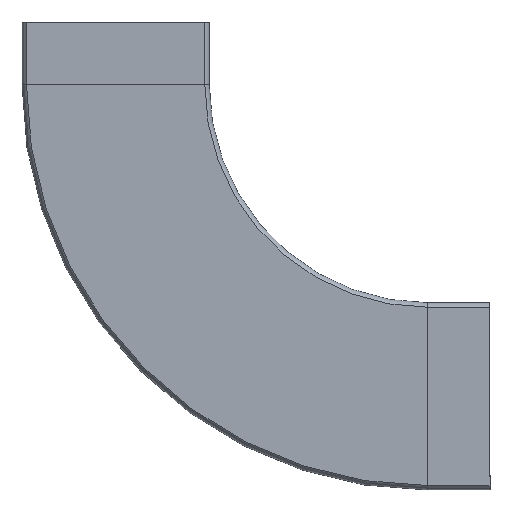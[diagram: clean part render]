
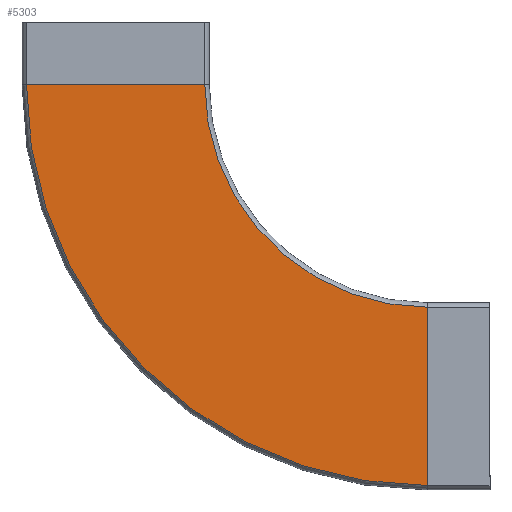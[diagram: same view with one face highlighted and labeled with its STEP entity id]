
A CAD part, front view. The second image highlights one B-rep face of the part: STEP entity #5303.
In plain terms, the highlighted planar face has unit normal (0, -1, 0).
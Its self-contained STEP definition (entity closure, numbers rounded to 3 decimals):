
#158 = VERTEX_POINT ( 'NONE', #2953 ) ;
#162 = ORIENTED_EDGE ( 'NONE', *, *, #2644, .F. ) ;
#263 = CARTESIAN_POINT ( 'NONE',  ( 200., -56.5, -40. ) ) ;
#289 = DIRECTION ( 'NONE',  ( 0., 0., 1. ) ) ;
#684 = EDGE_CURVE ( 'NONE', #2587, #1706, #1205, .T. ) ;
#708 = CARTESIAN_POINT ( 'NONE',  ( 0., -56.5, -40. ) ) ;
#810 = ORIENTED_EDGE ( 'NONE', *, *, #4607, .T. ) ;
#982 = CIRCLE ( 'NONE', #3830, 257.15 ) ;
#1097 = VECTOR ( 'NONE', #289, 1000. ) ;
#1143 = DIRECTION ( 'NONE',  ( 0., 1., 0. ) ) ;
#1205 = CIRCLE ( 'NONE', #5671, 142.85 ) ;
#1212 = DIRECTION ( 'NONE',  ( 0., 1., 0. ) ) ;
#1248 = LINE ( 'NONE', #708, #3510 ) ;
#1706 = VERTEX_POINT ( 'NONE', #5020 ) ;
#2260 = LINE ( 'NONE', #5538, #1097 ) ;
#2587 = VERTEX_POINT ( 'NONE', #5396 ) ;
#2644 = EDGE_CURVE ( 'NONE', #3007, #158, #982, .T. ) ;
#2664 = EDGE_LOOP ( 'NONE', ( #810, #162, #3384, #3267 ) ) ;
#2788 = AXIS2_PLACEMENT_3D ( 'NONE', #5127, #1212, #2904 ) ;
#2850 = DIRECTION ( 'NONE',  ( 0., 0., 1. ) ) ;
#2904 = DIRECTION ( 'NONE',  ( 0., 0., 1. ) ) ;
#2953 = CARTESIAN_POINT ( 'NONE',  ( -57.15, -56.5, -40. ) ) ;
#2961 = CARTESIAN_POINT ( 'NONE',  ( 200., -56.5, -297.15 ) ) ;
#3007 = VERTEX_POINT ( 'NONE', #2961 ) ;
#3026 = FACE_OUTER_BOUND ( 'NONE', #2664, .T. ) ;
#3235 = CARTESIAN_POINT ( 'NONE',  ( 200., -56.5, -40. ) ) ;
#3267 = ORIENTED_EDGE ( 'NONE', *, *, #684, .T. ) ;
#3384 = ORIENTED_EDGE ( 'NONE', *, *, #5239, .T. ) ;
#3510 = VECTOR ( 'NONE', #4654, 1000. ) ;
#3691 = DIRECTION ( 'NONE',  ( 0., 1., 0. ) ) ;
#3830 = AXIS2_PLACEMENT_3D ( 'NONE', #3235, #3691, #5410 ) ;
#4245 = PLANE ( 'NONE',  #2788 ) ;
#4607 = EDGE_CURVE ( 'NONE', #1706, #158, #1248, .T. ) ;
#4654 = DIRECTION ( 'NONE',  ( -1., 0., 0. ) ) ;
#5020 = CARTESIAN_POINT ( 'NONE',  ( 57.15, -56.5, -40. ) ) ;
#5127 = CARTESIAN_POINT ( 'NONE',  ( 200., -56.5, -182.85 ) ) ;
#5239 = EDGE_CURVE ( 'NONE', #3007, #2587, #2260, .T. ) ;
#5303 = ADVANCED_FACE ( 'NONE', ( #3026 ), #4245, .F. ) ;
#5396 = CARTESIAN_POINT ( 'NONE',  ( 200., -56.5, -182.85 ) ) ;
#5410 = DIRECTION ( 'NONE',  ( 0., 0., 1. ) ) ;
#5538 = CARTESIAN_POINT ( 'NONE',  ( 200., -56.5, -182.85 ) ) ;
#5671 = AXIS2_PLACEMENT_3D ( 'NONE', #263, #1143, #2850 ) ;
